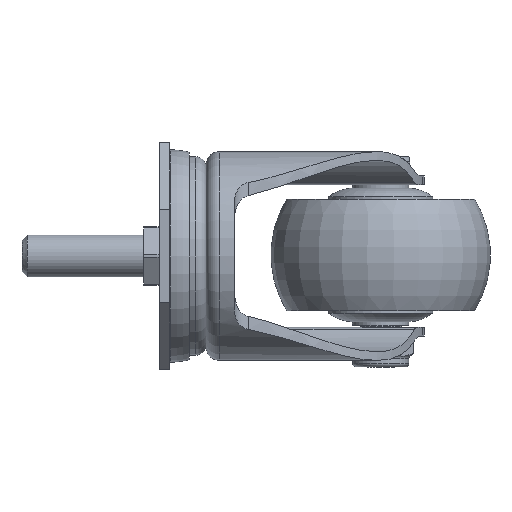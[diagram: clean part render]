
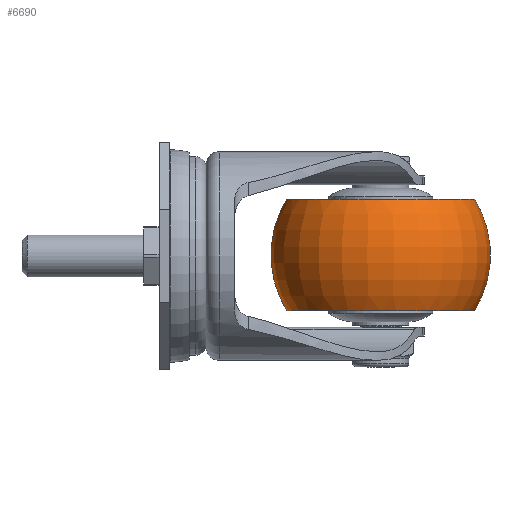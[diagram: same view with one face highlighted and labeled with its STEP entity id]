
A CAD part, left-side view. The second image highlights one B-rep face of the part: STEP entity #6690.
In plain terms, the highlighted toroidal (fillet/blend) face has major radius 0.806 mm and minor radius 30.694 mm.
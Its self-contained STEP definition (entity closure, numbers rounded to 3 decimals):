
#5891 = VERTEX_POINT ( 'NONE', #8323 ) ;
#5928 = VERTEX_POINT ( 'NONE', #8515 ) ;
#6014 = EDGE_CURVE ( 'NONE', #6104, #5891, #8675, .T. ) ;
#6104 = VERTEX_POINT ( 'NONE', #9131 ) ;
#6108 = VERTEX_POINT ( 'NONE', #9129 ) ;
#6117 = EDGE_CURVE ( 'NONE', #6108, #5928, #9158, .T. ) ;
#6690 = ADVANCED_FACE ( 'NONE', ( #11010 ), #11005, .T. ) ;
#6693 = EDGE_LOOP ( 'NONE', ( #6698, #6997, #7000, #7003 ) ) ;
#6698 = ORIENTED_EDGE ( 'NONE', *, *, #6117, .F. ) ;
#6705 = EDGE_CURVE ( 'NONE', #6108, #6104, #11271, .T. ) ;
#6759 = EDGE_CURVE ( 'NONE', #5928, #5891, #10977, .T. ) ;
#6997 = ORIENTED_EDGE ( 'NONE', *, *, #6705, .T. ) ;
#7000 = ORIENTED_EDGE ( 'NONE', *, *, #6014, .T. ) ;
#7003 = ORIENTED_EDGE ( 'NONE', *, *, #6759, .F. ) ;
#8323 = CARTESIAN_POINT ( 'NONE',  ( 0., -16., -27. ) ) ;
#8413 = DIRECTION ( 'NONE',  ( 0., 0., 1. ) ) ;
#8415 = DIRECTION ( 'NONE',  ( -1., 0., 0. ) ) ;
#8416 = CARTESIAN_POINT ( 'NONE',  ( 0., 0., -0.806 ) ) ;
#8418 = AXIS2_PLACEMENT_3D ( 'NONE', #8416, #8415, #8413 ) ;
#8515 = CARTESIAN_POINT ( 'NONE',  ( 0., -16., 27. ) ) ;
#8675 = CIRCLE ( 'NONE', #8418, 30.694 ) ;
#9129 = CARTESIAN_POINT ( 'NONE',  ( 0., 16., 27. ) ) ;
#9131 = CARTESIAN_POINT ( 'NONE',  ( 0., 16., -27. ) ) ;
#9151 = DIRECTION ( 'NONE',  ( 0., 0., -1. ) ) ;
#9153 = DIRECTION ( 'NONE',  ( 1., 0., 0. ) ) ;
#9154 = CARTESIAN_POINT ( 'NONE',  ( 0., 0., 0.806 ) ) ;
#9156 = AXIS2_PLACEMENT_3D ( 'NONE', #9154, #9153, #9151 ) ;
#9158 = CIRCLE ( 'NONE', #9156, 30.694 ) ;
#10969 = DIRECTION ( 'NONE',  ( 0., 0., -1. ) ) ;
#10971 = DIRECTION ( 'NONE',  ( 0., -1., 0. ) ) ;
#10974 = CARTESIAN_POINT ( 'NONE',  ( 0., -16., 0. ) ) ;
#10976 = AXIS2_PLACEMENT_3D ( 'NONE', #10974, #10971, #10969 ) ;
#10977 = CIRCLE ( 'NONE', #10976, 27. ) ;
#11000 = DIRECTION ( 'NONE',  ( 0., 0., -1. ) ) ;
#11001 = DIRECTION ( 'NONE',  ( 0., -1., 0. ) ) ;
#11002 = AXIS2_PLACEMENT_3D ( 'NONE', #11008, #11001, #11000 ) ;
#11005 = TOROIDAL_SURFACE ( 'NONE', #11002, 0.806, 30.694 ) ;
#11008 = CARTESIAN_POINT ( 'NONE',  ( 0., 0., 0. ) ) ;
#11010 = FACE_OUTER_BOUND ( 'NONE', #6693, .T. ) ;
#11251 = DIRECTION ( 'NONE',  ( 0., 0., -1. ) ) ;
#11253 = DIRECTION ( 'NONE',  ( 0., -1., 0. ) ) ;
#11255 = CARTESIAN_POINT ( 'NONE',  ( 0., 16., 0. ) ) ;
#11256 = AXIS2_PLACEMENT_3D ( 'NONE', #11255, #11253, #11251 ) ;
#11271 = CIRCLE ( 'NONE', #11256, 27. ) ;
